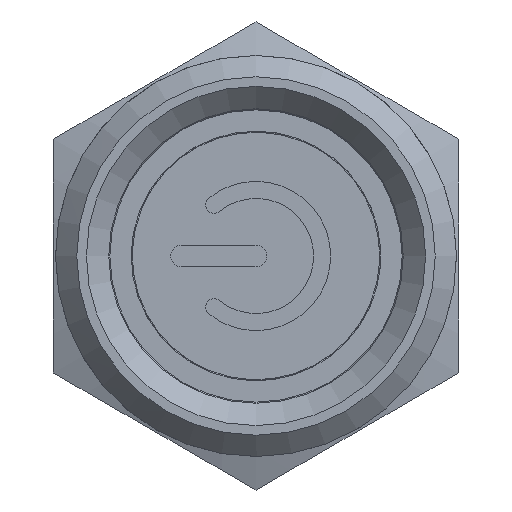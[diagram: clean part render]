
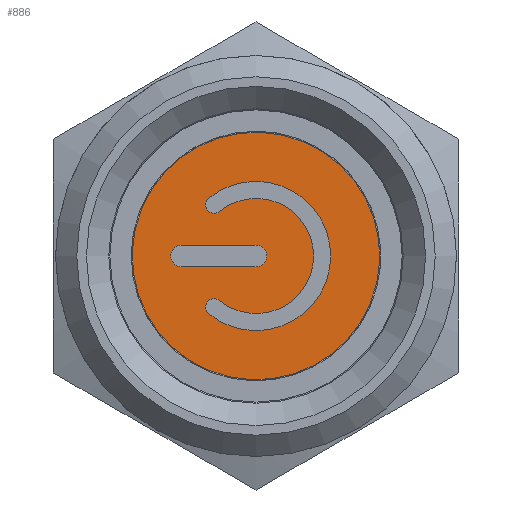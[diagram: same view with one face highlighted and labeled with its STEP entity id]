
A CAD part, left-side view. The second image highlights one B-rep face of the part: STEP entity #886.
In plain terms, the highlighted planar face has unit normal (-1, 0, 0).
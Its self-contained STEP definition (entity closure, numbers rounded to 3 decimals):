
#142=PLANE('',#10478);
#458=FACE_BOUND('',#2045,.T.);
#459=FACE_BOUND('',#2046,.T.);
#460=FACE_BOUND('',#2047,.T.);
#886=ADVANCED_FACE('',(#458,#459,#460),#142,.F.);
#2045=EDGE_LOOP('',(#3726,#3727,#3728,#3729));
#2046=EDGE_LOOP('',(#3730));
#2047=EDGE_LOOP('',(#3731,#3732,#3733,#3734));
#2704=CIRCLE('',#10471,3.5);
#2705=CIRCLE('',#10472,0.4);
#2706=CIRCLE('',#10473,2.7);
#2707=CIRCLE('',#10474,0.4);
#2708=CIRCLE('',#10475,5.8);
#2709=CIRCLE('',#10476,0.5);
#2710=CIRCLE('',#10477,0.5);
#3726=ORIENTED_EDGE('',*,*,#7145,.F.);
#3727=ORIENTED_EDGE('',*,*,#7146,.F.);
#3728=ORIENTED_EDGE('',*,*,#7147,.F.);
#3729=ORIENTED_EDGE('',*,*,#7148,.F.);
#3730=ORIENTED_EDGE('',*,*,#7149,.F.);
#3731=ORIENTED_EDGE('',*,*,#7150,.F.);
#3732=ORIENTED_EDGE('',*,*,#7151,.F.);
#3733=ORIENTED_EDGE('',*,*,#7152,.F.);
#3734=ORIENTED_EDGE('',*,*,#7153,.F.);
#6035=VERTEX_POINT('',#16824);
#6036=VERTEX_POINT('',#16825);
#6037=VERTEX_POINT('',#16827);
#6038=VERTEX_POINT('',#16829);
#6039=VERTEX_POINT('',#16832);
#6040=VERTEX_POINT('',#16834);
#6041=VERTEX_POINT('',#16835);
#6042=VERTEX_POINT('',#16837);
#6043=VERTEX_POINT('',#16839);
#7145=EDGE_CURVE('',#6035,#6036,#2704,.T.);
#7146=EDGE_CURVE('',#6037,#6035,#2705,.T.);
#7147=EDGE_CURVE('',#6038,#6037,#2706,.T.);
#7148=EDGE_CURVE('',#6036,#6038,#2707,.T.);
#7149=EDGE_CURVE('',#6039,#6039,#2708,.T.);
#7150=EDGE_CURVE('',#6040,#6041,#2709,.T.);
#7151=EDGE_CURVE('',#6042,#6040,#8295,.T.);
#7152=EDGE_CURVE('',#6043,#6042,#2710,.T.);
#7153=EDGE_CURVE('',#6041,#6043,#8296,.T.);
#8295=LINE('',#16836,#9267);
#8296=LINE('',#16840,#9268);
#9267=VECTOR('',#11906,1.);
#9268=VECTOR('',#11909,1.);
#10471=AXIS2_PLACEMENT_3D('',#16823,#11894,#11895);
#10472=AXIS2_PLACEMENT_3D('',#16826,#11896,#11897);
#10473=AXIS2_PLACEMENT_3D('',#16828,#11898,#11899);
#10474=AXIS2_PLACEMENT_3D('',#16830,#11900,#11901);
#10475=AXIS2_PLACEMENT_3D('',#16831,#11902,#11903);
#10476=AXIS2_PLACEMENT_3D('',#16833,#11904,#11905);
#10477=AXIS2_PLACEMENT_3D('',#16838,#11907,#11908);
#10478=AXIS2_PLACEMENT_3D('',#16841,#11910,#11911);
#11894=DIRECTION('',(-1.,0.,0.));
#11895=DIRECTION('',(0.,0.,-1.));
#11896=DIRECTION('',(-1.,0.,0.));
#11897=DIRECTION('',(0.,0.,-1.));
#11898=DIRECTION('',(1.,0.,0.));
#11899=DIRECTION('',(0.,0.,-1.));
#11900=DIRECTION('',(-1.,0.,0.));
#11901=DIRECTION('',(0.,0.,-1.));
#11902=DIRECTION('',(1.,0.,0.));
#11903=DIRECTION('',(0.,0.,-1.));
#11904=DIRECTION('',(-1.,0.,0.));
#11905=DIRECTION('',(0.,0.,-1.));
#11906=DIRECTION('',(0.,-1.,0.));
#11907=DIRECTION('',(-1.,0.,0.));
#11908=DIRECTION('',(0.,0.,-1.));
#11909=DIRECTION('',(0.,1.,0.));
#11910=DIRECTION('',(1.,0.,0.));
#11911=DIRECTION('',(0.,-0.924,-0.382));
#16823=CARTESIAN_POINT('',(-23.7,0.,118.98));
#16824=CARTESIAN_POINT('',(-23.7,2.215,116.27));
#16825=CARTESIAN_POINT('',(-23.7,2.215,121.69));
#16826=CARTESIAN_POINT('',(-23.7,1.962,116.58));
#16827=CARTESIAN_POINT('',(-23.7,1.709,116.89));
#16828=CARTESIAN_POINT('',(-23.7,0.,118.98));
#16829=CARTESIAN_POINT('',(-23.7,1.709,121.07));
#16830=CARTESIAN_POINT('',(-23.7,1.962,121.38));
#16831=CARTESIAN_POINT('',(-23.7,0.,118.98));
#16832=CARTESIAN_POINT('',(-23.7,-5.361,116.765));
#16833=CARTESIAN_POINT('',(-23.7,0.,118.98));
#16834=CARTESIAN_POINT('',(-23.7,0.,118.48));
#16835=CARTESIAN_POINT('',(-23.7,0.,119.48));
#16836=CARTESIAN_POINT('',(-23.7,0.,118.48));
#16837=CARTESIAN_POINT('',(-23.7,3.5,118.48));
#16838=CARTESIAN_POINT('',(-23.7,3.5,118.98));
#16839=CARTESIAN_POINT('',(-23.7,3.5,119.48));
#16840=CARTESIAN_POINT('',(-23.7,0.,119.48));
#16841=CARTESIAN_POINT('',(-23.7,0.,118.98));
